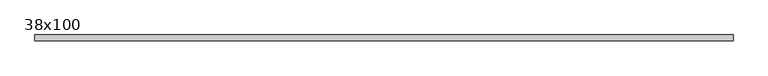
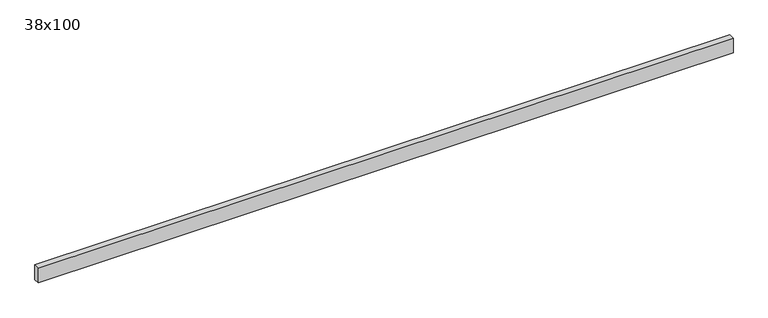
"""IFC4 building model written with IfcOpenShell, lengths in millimetres: beam geometry, Poutre - Bois de construction de dimensions courantes : 38x100."""

from ifc_helpers import new_model, si_unit, frame, origin, place, context, project, spatial, polyline, outline, extrude, source, transform, mapped, element, save


def beam_38x100_c1abace0(model_context):
    return source(origin(), model_context, "Body", "SweptSolid", [
        extrude(outline(polyline([(2176.0, 19.05), (2176.0, -19.05), (-2336.0, -19.05), (-2336.0, 19.05), (2176.0, 19.05)])), frame((0.0, 0.0, -50.0), z_axis=(0.0, 0.0, 1.0), x_axis=(1.0, 0.0, 0.0)), (0.0, 0.0, 1.0), 100.0),
    ])


if __name__ == "__main__":
    model = new_model("IFC4")
    model_context = context("Model", 3, world=origin())
    ifc_project = project(units=[si_unit("LENGTHUNIT", "METRE", prefix="MILLI")], contexts=[model_context])
    site = spatial("IfcSite", under=ifc_project)
    building = spatial("IfcBuilding", under=site)
    placement = place(None, origin())
    beam_38x100_shape = beam_38x100_c1abace0(model_context)
    element("IfcBeam", 1, ObjectType="Poutre - Bois de construction de dimensions courantes : 38x100", at=placement, inside=building, context=model_context, shape_type="MappedRepresentation", body=[
        mapped(beam_38x100_shape, transform((0.0, 0.0, 0.0), x_axis=(1.0, 0.0, 0.0), y_axis=(0.0, 1.0, 0.0), z_axis=(0.0, 0.0, 1.0))),
    ])
    save(model, "model.ifc")
